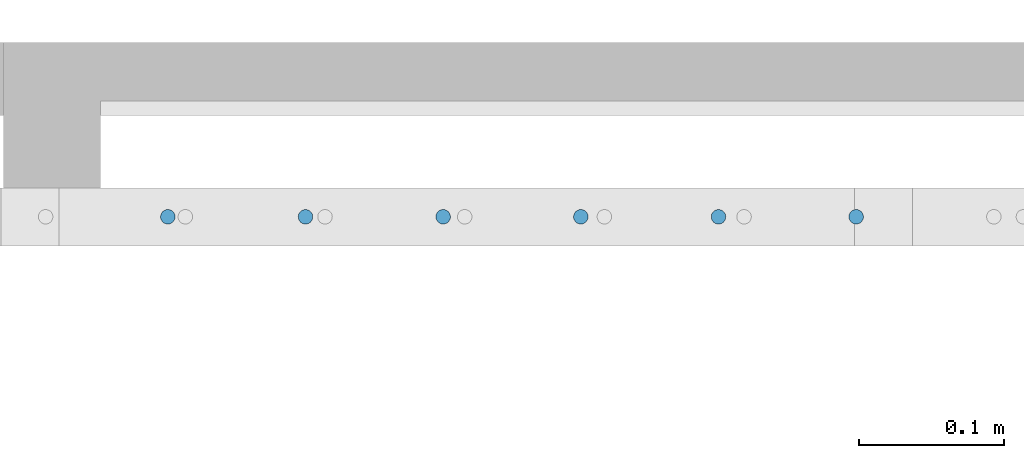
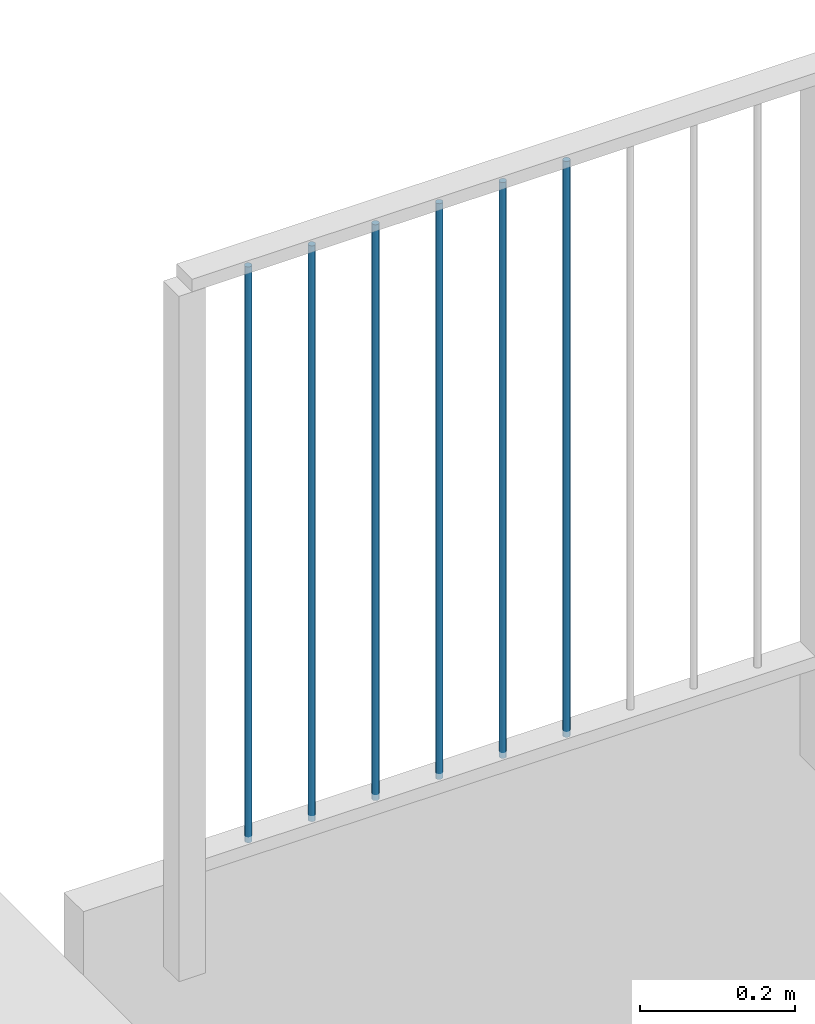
# One storey, part 19 of 135: 6 members, 1 element without a shape of its own.
"""IFC2X3 building model written with IfcOpenShell, lengths in millimetres."""

from ifc_helpers import new_model, entity, si_unit, converted_unit, derived_unit, money_unit, direction, frame, origin_with_axes, place, context, subcontext, project, spatial, faceted_brep, source, transform, mapped, material, type_object, type_shapes, element, aggregate, save


model = new_model("IFC2X3")

# Units and contexts
model_context = context("Model", 3, precision=0.01, world=origin_with_axes(), true_north=direction((0.0, 1.0)))
body_context = subcontext(model_context, "Body", "Model", "MODEL_VIEW")
ifc_project = project(units=[si_unit("LENGTHUNIT", "METRE", prefix="MILLI"), si_unit("AREAUNIT", "SQUARE_METRE"), si_unit("VOLUMEUNIT", "CUBIC_METRE"), converted_unit("PLANEANGLEUNIT", "DEGREE", entity("IfcPlaneAngleMeasure", 0.0174532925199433), si_unit("PLANEANGLEUNIT", "RADIAN"), dimensions=[0, 0, 0, 0, 0, 0, 0]), money_unit("EUR"), converted_unit("TIMEUNIT", "Year", entity("IfcTimeMeasure", 31557600.0), si_unit("TIMEUNIT", "SECOND"), dimensions=[0, 0, 1, 0, 0, 0, 0]), si_unit("MASSUNIT", "GRAM", prefix="KILO"), si_unit("THERMODYNAMICTEMPERATUREUNIT", "DEGREE_CELSIUS"), si_unit("LUMINOUSINTENSITYUNIT", "LUMEN"), si_unit("ENERGYUNIT", "JOULE", prefix="MEGA"), derived_unit("THERMALCONDUCTANCEUNIT", [(si_unit("POWERUNIT", "WATT"), 1), (si_unit("LENGTHUNIT", "METRE"), -1), (si_unit("THERMODYNAMICTEMPERATUREUNIT", "KELVIN"), -1)]), derived_unit("SPECIFICHEATCAPACITYUNIT", [(si_unit("ENERGYUNIT", "JOULE"), 1), (si_unit("MASSUNIT", "GRAM", prefix="KILO"), -1), (si_unit("THERMODYNAMICTEMPERATUREUNIT", "KELVIN"), -1)]), derived_unit("MASSDENSITYUNIT", [(si_unit("MASSUNIT", "GRAM", prefix="KILO"), 1), (si_unit("VOLUMEUNIT", "CUBIC_METRE"), -1)])], contexts=[model_context])

# Site, building, storey
site_placement = place(None, origin_with_axes())
site = spatial("IfcSite", under=ifc_project, at=site_placement, Name="Site", CompositionType="ELEMENT")
building_placement = place(site_placement, origin_with_axes())
building = spatial("IfcBuilding", under=site, at=building_placement, Name="Naam gebouw", CompositionType="ELEMENT")
storey_placement = place(building_placement, origin_with_axes())
storey = spatial("IfcBuildingStorey", under=building, at=storey_placement, Name="Begane grond N", CompositionType="ELEMENT", Elevation=0.0)

# Railing, members
railing_type = type_object("IfcRailingType", Name="Railing Type", PredefinedType="NOTDEFINED")
railing_placement = place(storey_placement, frame((56236.62159597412, 21185.9124251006, 157.4646725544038), z_axis=(0.0, 0.0, 1.0), x_axis=(1.0, 0.0, 0.0)))
railing = element("IfcRailing", 1, at=railing_placement, inside=storey, type_object=railing_type, Name="_Reling-x", PredefinedType="NOTDEFINED")
ifc_material = material(Name="Metaal - Staal C")
member_type = type_object("IfcMemberType", Name="IfcMember", PredefinedType="MEMBER")
shared_shape = source(origin_with_axes(), body_context, "Body", "Brep", [
    faceted_brep([(0.0, -5.0, 0.0), (0.8682408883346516, -4.92403876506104, 0.0), (0.868240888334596, -4.92403876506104, 907.5000000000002), (0.0, -5.0, 907.5000000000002), (-0.868240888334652, -4.92403876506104, 0.0), (-1.710100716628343, -4.698463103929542, 0.0), (-2.500000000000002, -4.330127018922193, 0.0), (-3.213938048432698, -3.830222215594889, 0.0), (-3.830222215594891, -3.213938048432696, 0.0), (-4.330127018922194, -2.5, 0.0), (-4.698463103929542, -1.710100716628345, 0.0), (-4.924038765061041, -0.86824088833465, 0.0), (-5.0, 0.0, 0.0), (-4.92403876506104, 0.8682408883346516, 0.0), (-4.698463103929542, 1.710100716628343, 0.0), (-4.330127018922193, 2.500000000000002, 0.0), (-3.83022221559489, 3.213938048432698, 0.0), (-3.213938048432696, 3.83022221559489, 0.0), (-2.5, 4.330127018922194, 0.0), (-1.710100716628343, 4.698463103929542, 0.0), (-0.8682408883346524, 4.92403876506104, 0.0), (0.0, 5.0, 0.0), (0.8682408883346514, 4.92403876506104, 0.0), (1.710100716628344, 4.698463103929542, 0.0), (2.5, 4.330127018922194, 0.0), (3.213938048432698, 3.83022221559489, 0.0), (3.83022221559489, 3.213938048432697, 0.0), (4.330127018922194, 2.499999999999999, 0.0), (4.698463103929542, 1.710100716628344, 0.0), (4.92403876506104, 0.8682408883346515, 0.0), (5.0, 0.0, 0.0), (4.92403876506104, -0.8682408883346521, 0.0), (4.698463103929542, -1.710100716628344, 0.0), (4.330127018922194, -2.5, 0.0), (3.83022221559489, -3.213938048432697, 0.0), (3.213938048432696, -3.83022221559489, 0.0), (2.5, -4.330127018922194, 0.0), (1.710100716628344, -4.698463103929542, 0.0), (1.710100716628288, -4.698463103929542, 907.5000000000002), (2.499999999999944, -4.330127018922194, 907.5000000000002), (3.213938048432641, -3.83022221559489, 907.5000000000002), (3.830222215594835, -3.213938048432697, 907.5000000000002), (4.330127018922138, -2.5, 907.5000000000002), (4.698463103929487, -1.710100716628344, 907.5000000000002), (4.924038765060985, -0.8682408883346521, 907.5000000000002), (4.999999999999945, 0.0, 907.5000000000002), (4.924038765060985, 0.8682408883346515, 907.5000000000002), (4.698463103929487, 1.710100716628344, 907.5000000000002), (4.330127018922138, 2.499999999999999, 907.5000000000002), (3.830222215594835, 3.213938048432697, 907.5000000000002), (3.213938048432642, 3.83022221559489, 907.5000000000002), (2.499999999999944, 4.330127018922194, 907.5000000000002), (1.710100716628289, 4.698463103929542, 907.5000000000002), (0.8682408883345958, 4.92403876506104, 907.5000000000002), (0.0, 5.0, 907.5000000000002), (-0.868240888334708, 4.92403876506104, 907.5000000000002), (-1.710100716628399, 4.698463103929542, 907.5000000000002), (-2.500000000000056, 4.330127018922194, 907.5000000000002), (-3.213938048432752, 3.83022221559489, 907.5000000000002), (-3.830222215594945, 3.213938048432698, 907.5000000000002), (-4.330127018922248, 2.500000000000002, 907.5000000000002), (-4.698463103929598, 1.710100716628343, 907.5000000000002), (-4.924038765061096, 0.8682408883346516, 907.5000000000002), (-5.000000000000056, 0.0, 907.5000000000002), (-4.924038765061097, -0.86824088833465, 907.5000000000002), (-4.698463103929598, -1.710100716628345, 907.5000000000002), (-4.330127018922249, -2.5, 907.5000000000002), (-3.830222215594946, -3.213938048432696, 907.5000000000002), (-3.213938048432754, -3.830222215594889, 907.5000000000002), (-2.500000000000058, -4.330127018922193, 907.5000000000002), (-1.710100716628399, -4.698463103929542, 907.5000000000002), (-0.8682408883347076, -4.92403876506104, 907.5000000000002)], [[[0, 1, 2, 3]], [[0, 4, 5, 6, 7, 8, 9, 10, 11, 12, 13, 14, 15, 16, 17, 18, 19, 20, 21, 22, 23, 24, 25, 26, 27, 28, 29, 30, 31, 32, 33, 34, 35, 36, 37, 1]], [[1, 37, 38, 2]], [[3, 2, 38, 39, 40, 41, 42, 43, 44, 45, 46, 47, 48, 49, 50, 51, 52, 53, 54, 55, 56, 57, 58, 59, 60, 61, 62, 63, 64, 65, 66, 67, 68, 69, 70, 71]], [[4, 0, 3, 71]], [[5, 4, 71, 70]], [[6, 5, 70, 69]], [[7, 6, 69, 68]], [[8, 7, 68, 67]], [[9, 8, 67, 66]], [[10, 9, 66, 65]], [[11, 10, 65, 64]], [[12, 11, 64, 63]], [[13, 12, 63, 62]], [[14, 13, 62, 61]], [[15, 14, 61, 60]], [[16, 15, 60, 59]], [[17, 16, 59, 58]], [[18, 17, 58, 57]], [[19, 18, 57, 56]], [[20, 19, 56, 55]], [[21, 20, 55, 54]], [[22, 21, 54, 53]], [[23, 22, 53, 52]], [[24, 23, 52, 51]], [[25, 24, 51, 50]], [[26, 25, 50, 49]], [[27, 26, 49, 48]], [[28, 27, 48, 47]], [[29, 28, 47, 46]], [[30, 29, 46, 45]], [[31, 30, 45, 44]], [[32, 31, 44, 43]], [[33, 32, 43, 42]], [[34, 33, 42, 41]], [[35, 34, 41, 40]], [[36, 35, 40, 39]], [[37, 36, 39, 38]]]),
])
type_shapes(member_type, [shared_shape])
member_1_placement = place(railing_placement, frame((-1226.747710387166, 2465.000000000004, 4075.163046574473), z_axis=(0.0, 0.0, 1.0), x_axis=(1.0, 0.0, 0.0)))
member_1 = element("IfcMember", 2, at=member_1_placement, type_object=member_type, material=ifc_material, Name="_Spijlen-x", ObjectType="MEMBER", context=body_context, shape_type="MappedRepresentation", body=[
    mapped(shared_shape, transform((0.0, 0.0, 0.0), x_axis=(0.0, 1.0, 0.0), y_axis=(-1.0, 0.0, 0.0), z_axis=(0.0, 0.0, 1.0))),
])
member_2_placement = place(railing_placement, frame((-1321.656770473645, 2465.000000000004, 4075.163046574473), z_axis=(0.0, 0.0, 1.0), x_axis=(1.0, 0.0, 0.0)))
member_2 = element("IfcMember", 3, at=member_2_placement, type_object=member_type, material=ifc_material, Name="_Spijlen-x", ObjectType="MEMBER", context=body_context, shape_type="MappedRepresentation", body=[
    mapped(shared_shape, transform((0.0, 0.0, 0.0), x_axis=(0.0, 1.0, 0.0), y_axis=(-1.0, 0.0, 0.0), z_axis=(0.0, 0.0, 1.0))),
])
member_3_placement = place(railing_placement, frame((-1416.565830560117, 2465.000000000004, 4075.163046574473), z_axis=(0.0, 0.0, 1.0), x_axis=(1.0, 0.0, 0.0)))
member_3 = element("IfcMember", 4, at=member_3_placement, type_object=member_type, material=ifc_material, Name="_Spijlen-x", ObjectType="MEMBER", context=body_context, shape_type="MappedRepresentation", body=[
    mapped(shared_shape, transform((0.0, 0.0, 0.0), x_axis=(0.0, 1.0, 0.0), y_axis=(-1.0, 0.0, 0.0), z_axis=(0.0, 0.0, 1.0))),
])
member_4_placement = place(railing_placement, frame((-1511.474890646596, 2465.000000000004, 4075.163046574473), z_axis=(0.0, 0.0, 1.0), x_axis=(1.0, 0.0, 0.0)))
member_4 = element("IfcMember", 5, at=member_4_placement, type_object=member_type, material=ifc_material, Name="_Spijlen-x", ObjectType="MEMBER", context=body_context, shape_type="MappedRepresentation", body=[
    mapped(shared_shape, transform((0.0, 0.0, 0.0), x_axis=(0.0, 1.0, 0.0), y_axis=(-1.0, 0.0, 0.0), z_axis=(0.0, 0.0, 1.0))),
])
member_5_placement = place(railing_placement, frame((-1606.383950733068, 2465.000000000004, 4075.163046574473), z_axis=(0.0, 0.0, 1.0), x_axis=(1.0, 0.0, 0.0)))
member_5 = element("IfcMember", 6, at=member_5_placement, type_object=member_type, material=ifc_material, Name="_Spijlen-x", ObjectType="MEMBER", context=body_context, shape_type="MappedRepresentation", body=[
    mapped(shared_shape, transform((0.0, 0.0, 0.0), x_axis=(0.0, 1.0, 0.0), y_axis=(-1.0, 0.0, 0.0), z_axis=(0.0, 0.0, 1.0))),
])
member_6_placement = place(railing_placement, frame((-1701.293010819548, 2465.000000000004, 4075.163046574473), z_axis=(0.0, 0.0, 1.0), x_axis=(1.0, 0.0, 0.0)))
member_6 = element("IfcMember", 7, at=member_6_placement, type_object=member_type, material=ifc_material, Name="_Spijlen-x", ObjectType="MEMBER", context=body_context, shape_type="MappedRepresentation", body=[
    mapped(shared_shape, transform((0.0, 0.0, 0.0), x_axis=(0.0, 1.0, 0.0), y_axis=(-1.0, 0.0, 0.0), z_axis=(0.0, 0.0, 1.0))),
])
aggregate(railing, [member_1, member_2, member_3, member_4, member_5, member_6])

save(model, "model.ifc")
